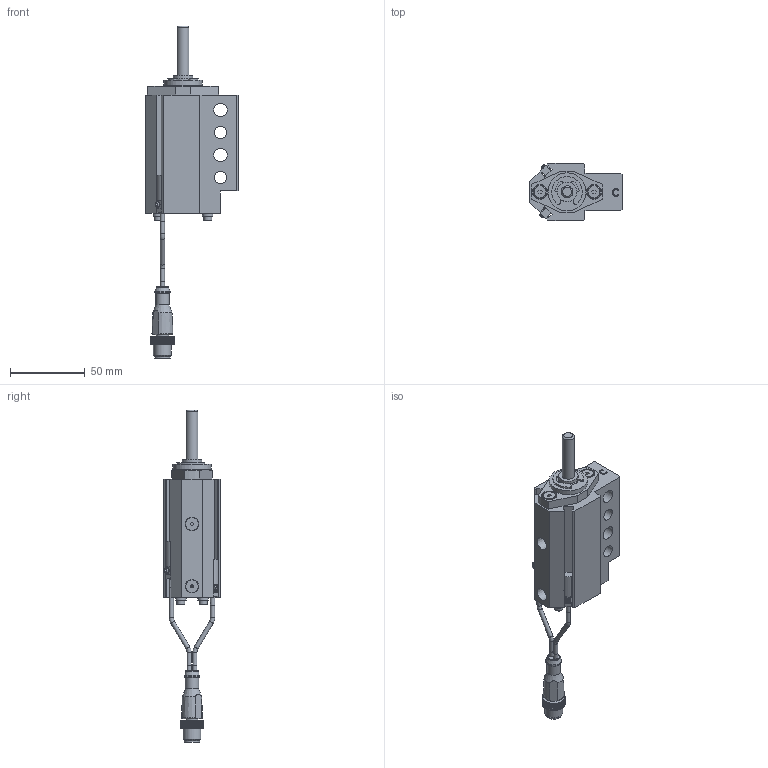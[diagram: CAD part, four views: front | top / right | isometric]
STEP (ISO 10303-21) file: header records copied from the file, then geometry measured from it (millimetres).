
FILE_DESCRIPTION(/* description */ ('NAAMS FLOATING MICRO PIN'),/* implementation_level */ '2;1');
FILE_NAME(/* name */ 'C:\Vault Workspace\CAD\Welker\Shot Pin\NMP\NMP080032ECNL3.stp',/* time_stamp */ '2021-01-28T11:55:12-05:00',/* author */ ('WELKER'),/* organization */ (''),/* preprocessor_version */ 'ST-DEVELOPER v18.1',/* originating_system */ 'Autodesk Inventor 2020',/* authorisation */ '');
FILE_SCHEMA (('AUTOMOTIVE_DESIGN { 1 0 10303 214 3 1 1 }'));
Length unit declared in the file: millimetre
Products named in the file (16): NMPL01; NMP L3 SWITCH; L3 Connector; L3 Sensor 1; L3 Sensor 2; L3 Sensor cable; L3 Sensor cable 2; M3X0.5-8 SHCS; NL3; NMPE06; NMPE03; NMPE04-DIA-LENGTH; 985432A218; NMPE01C-PORT; RMPE02; M5X5 SHOULDER
Assembly tree (22 placements, depth 3):
  NMPL01
    NMP L3 SWITCH
      L3 Connector
      L3 Sensor 1
      L3 Sensor 2
      L3 Sensor cable
      L3 Sensor cable 2
    M3X0.5-8 SHCS  x4
    NL3  x4
    NMPE06
    NMPE03
    NMPE04-DIA-LENGTH
    985432A218
    NMPE01C-PORT
    RMPE02
    M5X5 SHOULDER  x2
Bounding box: 62 x 38.1 x 221.52 mm (x, y, z)
Volume: 111034.2 mm3; surface area: 45684.4 mm2
Topology: 21 solids, 21 shells, 752 faces, 2037 edges, 1361 vertices
Faces by surface type: plane 546, cylinder 144, cone 31, bspline 18, torus 11, sphere 2
Full cylindrical faces by diameter (mm): 2 x2, 2.459 x4, 2.9 x10, 3 x5, 3.242 x2, 3.4 x4, 4 x2, 5 x6, 5.5 x4, 7 x4, 8 x3, 8.3 x2, 9 x5, 10 x3, 10.4 x1, 10.5 x1, 12 x1, 13 x3, 16 x2, 19.05 x3, 21 x1, 22.5 x1, 23.672 x1, 24 x1, 25.4 x1, 25.5 x1, 26.5 x1, 28.677 x1, 29.21 x1, 31.75 x2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
Entity records: 23031 total; most frequent: CARTESIAN_POINT 4361, ORIENTED_EDGE 3772, DIRECTION 3689, EDGE_CURVE 1886, LINE 1377, VECTOR 1377, VERTEX_POINT 1266, AXIS2_PLACEMENT_3D 1156
